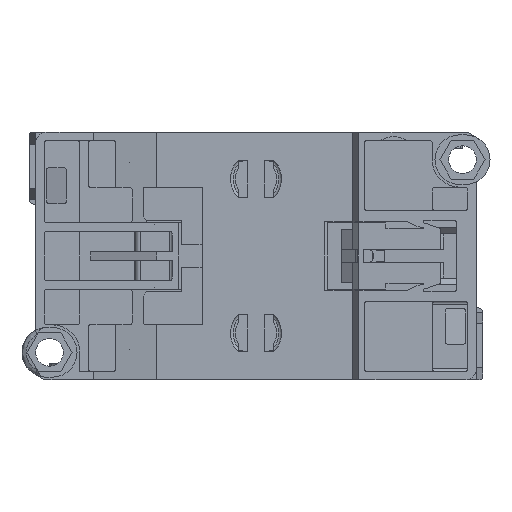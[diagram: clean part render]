
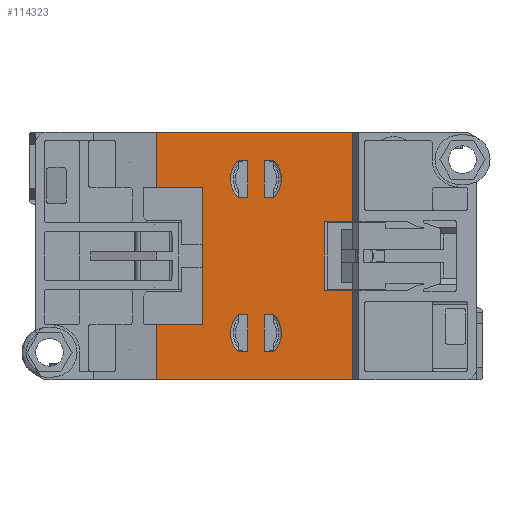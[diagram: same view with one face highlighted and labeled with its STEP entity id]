
A CAD part, front view. The second image highlights one B-rep face of the part: STEP entity #114323.
In plain terms, the highlighted planar face has unit normal (0, -1, 0).
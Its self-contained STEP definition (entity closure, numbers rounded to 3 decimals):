
#5533=DIRECTION('',(-1.,0.,0.));
#5534=VECTOR('',#5533,8.2);
#5535=CARTESIAN_POINT('',(-9.8,-98.95,12.5));
#5536=LINE('',#5535,#5534);
#5906=DIRECTION('',(0.,0.,1.));
#5907=VECTOR('',#5906,25.);
#5908=CARTESIAN_POINT('',(-9.8,-98.95,-12.5));
#5909=LINE('',#5908,#5907);
#5914=DIRECTION('',(-1.,0.,0.));
#5915=VECTOR('',#5914,35.5);
#5916=CARTESIAN_POINT('',(17.5,-98.95,22.5));
#5917=LINE('',#5916,#5915);
#5918=DIRECTION('',(-1.,0.,0.));
#5919=VECTOR('',#5918,5.);
#5920=CARTESIAN_POINT('',(17.5,-98.95,-6.2));
#5921=LINE('',#5920,#5919);
#5922=DIRECTION('',(1.,0.,0.));
#5923=VECTOR('',#5922,35.5);
#5924=CARTESIAN_POINT('',(-18.,-98.95,-22.5));
#5925=LINE('',#5924,#5923);
#5926=DIRECTION('',(-1.,0.,0.));
#5927=VECTOR('',#5926,8.2);
#5928=CARTESIAN_POINT('',(-9.8,-98.95,-12.5));
#5929=LINE('',#5928,#5927);
#5930=CARTESIAN_POINT('',(0.,-98.95,14.));
#5931=DIRECTION('',(0.,-1.,0.));
#5932=DIRECTION('',(0.699,0.,-0.715));
#5933=AXIS2_PLACEMENT_3D('',#5930,#5931,#5932);
#5935=DIRECTION('',(-1.,0.,0.));
#5936=VECTOR('',#5935,1.75);
#5937=CARTESIAN_POINT('',(-1.5,-98.95,10.674));
#5938=LINE('',#5937,#5936);
#5939=DIRECTION('',(0.,0.,-1.));
#5940=VECTOR('',#5939,6.651);
#5941=CARTESIAN_POINT('',(-1.5,-98.95,17.326));
#5942=LINE('',#5941,#5940);
#5943=DIRECTION('',(1.,0.,0.));
#5944=VECTOR('',#5943,1.75);
#5945=CARTESIAN_POINT('',(-3.25,-98.95,17.326));
#5946=LINE('',#5945,#5944);
#5947=CARTESIAN_POINT('',(0.,-98.95,14.));
#5948=DIRECTION('',(0.,1.,0.));
#5949=DIRECTION('',(-0.699,0.,-0.715));
#5950=AXIS2_PLACEMENT_3D('',#5947,#5948,#5949);
#5952=DIRECTION('',(1.,0.,0.));
#5953=VECTOR('',#5952,1.75);
#5954=CARTESIAN_POINT('',(-3.25,-98.95,-10.674));
#5955=LINE('',#5954,#5953);
#5956=CARTESIAN_POINT('',(0.,-98.95,-14.));
#5957=DIRECTION('',(0.,1.,0.));
#5958=DIRECTION('',(-0.699,0.,-0.715));
#5959=AXIS2_PLACEMENT_3D('',#5956,#5957,#5958);
#5961=DIRECTION('',(-1.,0.,0.));
#5962=VECTOR('',#5961,1.75);
#5963=CARTESIAN_POINT('',(-1.5,-98.95,-17.326));
#5964=LINE('',#5963,#5962);
#5965=DIRECTION('',(0.,0.,-1.));
#5966=VECTOR('',#5965,6.651);
#5967=CARTESIAN_POINT('',(-1.5,-98.95,-10.674));
#5968=LINE('',#5967,#5966);
#5969=CARTESIAN_POINT('',(0.,-98.95,-14.));
#5970=DIRECTION('',(0.,-1.,0.));
#5971=DIRECTION('',(0.699,0.,-0.715));
#5972=AXIS2_PLACEMENT_3D('',#5969,#5970,#5971);
#5974=DIRECTION('',(0.,0.,-1.));
#5975=VECTOR('',#5974,10.);
#5976=CARTESIAN_POINT('',(-18.,-98.95,22.5));
#5977=LINE('',#5976,#5975);
#21793=DIRECTION('',(-1.,0.,0.));
#21794=VECTOR('',#21793,1.75);
#21795=CARTESIAN_POINT('',(3.25,-98.95,17.326));
#21796=LINE('',#21795,#21794);
#21801=DIRECTION('',(0.,0.,-1.));
#21802=VECTOR('',#21801,6.651);
#21803=CARTESIAN_POINT('',(1.5,-98.95,17.326));
#21804=LINE('',#21803,#21802);
#21805=DIRECTION('',(1.,0.,0.));
#21806=VECTOR('',#21805,1.75);
#21807=CARTESIAN_POINT('',(1.5,-98.95,10.674));
#21808=LINE('',#21807,#21806);
#22932=DIRECTION('',(-1.,0.,0.));
#22933=VECTOR('',#22932,1.75);
#22934=CARTESIAN_POINT('',(3.25,-98.95,-10.674));
#22935=LINE('',#22934,#22933);
#22940=DIRECTION('',(0.,0.,-1.));
#22941=VECTOR('',#22940,6.651);
#22942=CARTESIAN_POINT('',(1.5,-98.95,-10.674));
#22943=LINE('',#22942,#22941);
#22944=DIRECTION('',(1.,0.,0.));
#22945=VECTOR('',#22944,1.75);
#22946=CARTESIAN_POINT('',(1.5,-98.95,-17.326));
#22947=LINE('',#22946,#22945);
#67976=DIRECTION('',(-1.,0.,0.));
#67977=VECTOR('',#67976,5.);
#67978=CARTESIAN_POINT('',(17.5,-98.95,6.2));
#67979=LINE('',#67978,#67977);
#69907=DIRECTION('',(0.,0.,-1.));
#69908=VECTOR('',#69907,16.3);
#69909=CARTESIAN_POINT('',(17.5,-98.95,-6.2));
#69910=LINE('',#69909,#69908);
#69915=DIRECTION('',(0.,0.,-1.));
#69916=VECTOR('',#69915,12.4);
#69917=CARTESIAN_POINT('',(12.5,-98.95,6.2));
#69918=LINE('',#69917,#69916);
#70989=DIRECTION('',(0.,0.,-1.));
#70990=VECTOR('',#70989,16.3);
#70991=CARTESIAN_POINT('',(17.5,-98.95,22.5));
#70992=LINE('',#70991,#70990);
#80392=DIRECTION('',(0.,0.,-1.));
#80393=VECTOR('',#80392,10.);
#80394=CARTESIAN_POINT('',(-18.,-98.95,-12.5));
#80395=LINE('',#80394,#80393);
#89279=CARTESIAN_POINT('',(17.5,-98.95,22.5));
#89281=VERTEX_POINT('',#89279);
#89314=CARTESIAN_POINT('',(-18.,-98.95,22.5));
#89315=VERTEX_POINT('',#89314);
#89445=CARTESIAN_POINT('',(17.5,-98.95,-22.5));
#89446=VERTEX_POINT('',#89445);
#89447=CARTESIAN_POINT('',(-18.,-98.95,-22.5));
#89448=VERTEX_POINT('',#89447);
#89777=CARTESIAN_POINT('',(-9.8,-98.95,12.5));
#89778=CARTESIAN_POINT('',(-18.,-98.95,12.5));
#89779=VERTEX_POINT('',#89777);
#89780=VERTEX_POINT('',#89778);
#89781=CARTESIAN_POINT('',(-9.8,-98.95,-12.5));
#89782=VERTEX_POINT('',#89781);
#89783=CARTESIAN_POINT('',(-18.,-98.95,-12.5));
#89784=VERTEX_POINT('',#89783);
#89785=CARTESIAN_POINT('',(17.5,-98.95,-6.2));
#89786=VERTEX_POINT('',#89785);
#89787=CARTESIAN_POINT('',(12.5,-98.95,-6.2));
#89788=VERTEX_POINT('',#89787);
#89789=CARTESIAN_POINT('',(12.5,-98.95,6.2));
#89790=VERTEX_POINT('',#89789);
#89791=CARTESIAN_POINT('',(17.5,-98.95,6.2));
#89792=VERTEX_POINT('',#89791);
#89793=CARTESIAN_POINT('',(1.5,-98.95,10.674));
#89794=CARTESIAN_POINT('',(3.25,-98.95,10.674));
#89795=VERTEX_POINT('',#89793);
#89796=VERTEX_POINT('',#89794);
#89797=CARTESIAN_POINT('',(1.5,-98.95,17.326));
#89798=VERTEX_POINT('',#89797);
#89799=CARTESIAN_POINT('',(3.25,-98.95,17.326));
#89800=VERTEX_POINT('',#89799);
#89801=CARTESIAN_POINT('',(-1.5,-98.95,10.674));
#89802=CARTESIAN_POINT('',(-3.25,-98.95,10.674));
#89803=VERTEX_POINT('',#89801);
#89804=VERTEX_POINT('',#89802);
#89805=CARTESIAN_POINT('',(-3.25,-98.95,17.326));
#89806=VERTEX_POINT('',#89805);
#89807=CARTESIAN_POINT('',(-1.5,-98.95,17.326));
#89808=VERTEX_POINT('',#89807);
#89809=CARTESIAN_POINT('',(-3.25,-98.95,-10.674));
#89810=CARTESIAN_POINT('',(-1.5,-98.95,-10.674));
#89811=VERTEX_POINT('',#89809);
#89812=VERTEX_POINT('',#89810);
#89813=CARTESIAN_POINT('',(-1.5,-98.95,-17.326));
#89814=VERTEX_POINT('',#89813);
#89815=CARTESIAN_POINT('',(-3.25,-98.95,-17.326));
#89816=VERTEX_POINT('',#89815);
#89817=CARTESIAN_POINT('',(1.5,-98.95,-10.674));
#89818=CARTESIAN_POINT('',(1.5,-98.95,-17.326));
#89819=VERTEX_POINT('',#89817);
#89820=VERTEX_POINT('',#89818);
#89821=CARTESIAN_POINT('',(3.25,-98.95,-10.674));
#89822=VERTEX_POINT('',#89821);
#89823=CARTESIAN_POINT('',(3.25,-98.95,-17.326));
#89824=VERTEX_POINT('',#89823);
#114254=CARTESIAN_POINT('',(40.,-98.95,22.5));
#114255=DIRECTION('',(0.,-1.,0.));
#114256=DIRECTION('',(-1.,0.,0.));
#114257=AXIS2_PLACEMENT_3D('',#114254,#114255,#114256);
#114258=PLANE('',#114257);
#114260=ORIENTED_EDGE('',*,*,#114259,.F.);
#114262=ORIENTED_EDGE('',*,*,#114261,.F.);
#114264=ORIENTED_EDGE('',*,*,#114263,.T.);
#114266=ORIENTED_EDGE('',*,*,#114265,.T.);
#114268=ORIENTED_EDGE('',*,*,#114267,.T.);
#114270=ORIENTED_EDGE('',*,*,#114269,.F.);
#114272=ORIENTED_EDGE('',*,*,#114271,.T.);
#114274=ORIENTED_EDGE('',*,*,#114273,.F.);
#114276=ORIENTED_EDGE('',*,*,#114275,.F.);
#114278=ORIENTED_EDGE('',*,*,#114277,.F.);
#114279=ORIENTED_EDGE('',*,*,#114244,.T.);
#114280=ORIENTED_EDGE('',*,*,#113747,.T.);
#114281=EDGE_LOOP('',(#114260,#114262,#114264,#114266,#114268,#114270,#114272,
#114274,#114276,#114278,#114279,#114280));
#114282=FACE_OUTER_BOUND('',#114281,.F.);
#114284=ORIENTED_EDGE('',*,*,#114283,.T.);
#114286=ORIENTED_EDGE('',*,*,#114285,.T.);
#114288=ORIENTED_EDGE('',*,*,#114287,.T.);
#114290=ORIENTED_EDGE('',*,*,#114289,.T.);
#114291=EDGE_LOOP('',(#114284,#114286,#114288,#114290));
#114292=FACE_BOUND('',#114291,.F.);
#114294=ORIENTED_EDGE('',*,*,#114293,.F.);
#114296=ORIENTED_EDGE('',*,*,#114295,.F.);
#114298=ORIENTED_EDGE('',*,*,#114297,.F.);
#114300=ORIENTED_EDGE('',*,*,#114299,.F.);
#114301=EDGE_LOOP('',(#114294,#114296,#114298,#114300));
#114302=FACE_BOUND('',#114301,.F.);
#114304=ORIENTED_EDGE('',*,*,#114303,.F.);
#114306=ORIENTED_EDGE('',*,*,#114305,.F.);
#114308=ORIENTED_EDGE('',*,*,#114307,.F.);
#114310=ORIENTED_EDGE('',*,*,#114309,.F.);
#114311=EDGE_LOOP('',(#114304,#114306,#114308,#114310));
#114312=FACE_BOUND('',#114311,.F.);
#114314=ORIENTED_EDGE('',*,*,#114313,.T.);
#114316=ORIENTED_EDGE('',*,*,#114315,.T.);
#114318=ORIENTED_EDGE('',*,*,#114317,.T.);
#114320=ORIENTED_EDGE('',*,*,#114319,.T.);
#114321=EDGE_LOOP('',(#114314,#114316,#114318,#114320));
#114322=FACE_BOUND('',#114321,.F.);
#114323=ADVANCED_FACE('',(#114282,#114292,#114302,#114312,#114322),#114258,.T.);
#5934=CIRCLE('',#5933,4.65);
#5951=CIRCLE('',#5950,4.65);
#5960=CIRCLE('',#5959,4.65);
#5973=CIRCLE('',#5972,4.65);
#113747=EDGE_CURVE('',#89779,#89780,#5536,.T.);
#114244=EDGE_CURVE('',#89782,#89779,#5909,.T.);
#114259=EDGE_CURVE('',#89315,#89780,#5977,.T.);
#114261=EDGE_CURVE('',#89281,#89315,#5917,.T.);
#114263=EDGE_CURVE('',#89281,#89792,#70992,.T.);
#114265=EDGE_CURVE('',#89792,#89790,#67979,.T.);
#114267=EDGE_CURVE('',#89790,#89788,#69918,.T.);
#114269=EDGE_CURVE('',#89786,#89788,#5921,.T.);
#114271=EDGE_CURVE('',#89786,#89446,#69910,.T.);
#114273=EDGE_CURVE('',#89448,#89446,#5925,.T.);
#114275=EDGE_CURVE('',#89784,#89448,#80395,.T.);
#114277=EDGE_CURVE('',#89782,#89784,#5929,.T.);
#114283=EDGE_CURVE('',#89796,#89800,#5934,.T.);
#114285=EDGE_CURVE('',#89800,#89798,#21796,.T.);
#114287=EDGE_CURVE('',#89798,#89795,#21804,.T.);
#114289=EDGE_CURVE('',#89795,#89796,#21808,.T.);
#114293=EDGE_CURVE('',#89803,#89804,#5938,.T.);
#114295=EDGE_CURVE('',#89808,#89803,#5942,.T.);
#114297=EDGE_CURVE('',#89806,#89808,#5946,.T.);
#114299=EDGE_CURVE('',#89804,#89806,#5951,.T.);
#114303=EDGE_CURVE('',#89811,#89812,#5955,.T.);
#114305=EDGE_CURVE('',#89816,#89811,#5960,.T.);
#114307=EDGE_CURVE('',#89814,#89816,#5964,.T.);
#114309=EDGE_CURVE('',#89812,#89814,#5968,.T.);
#114313=EDGE_CURVE('',#89819,#89820,#22943,.T.);
#114315=EDGE_CURVE('',#89820,#89824,#22947,.T.);
#114317=EDGE_CURVE('',#89824,#89822,#5973,.T.);
#114319=EDGE_CURVE('',#89822,#89819,#22935,.T.);
